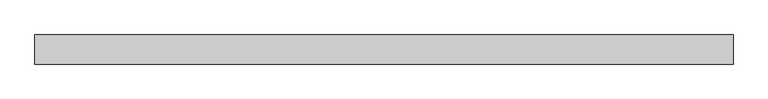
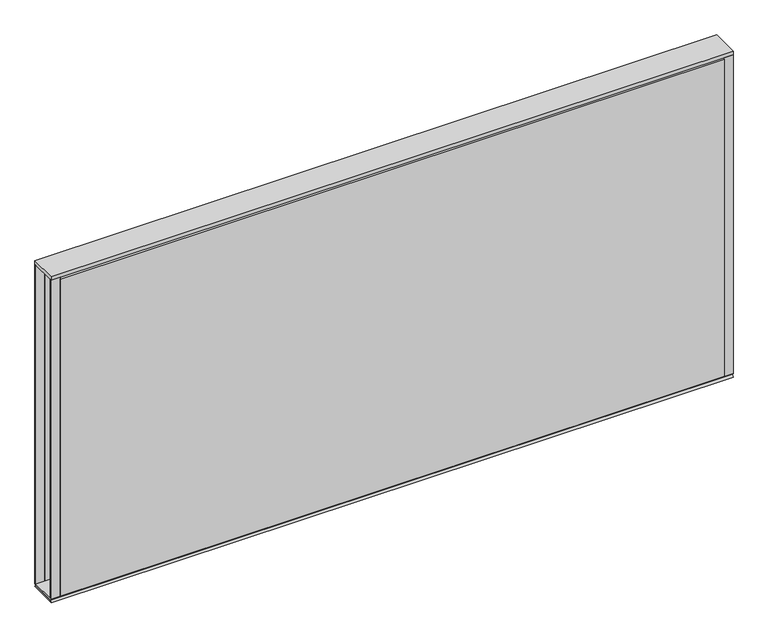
"""IFC4 building model written with IfcOpenShell, lengths in millimetres: furniture geometry, Steelcase - Kick Solutions - Panel - Stacker - Tackable Acoustical : 24H x 48W."""

from ifc_helpers import new_model, si_unit, frame, origin, place, context, project, spatial, polyline, outline, extrude, source, transform, mapped, element, save


def furniture_49650d01(model_context):
    return source(origin(), model_context, "Body", "SweptSolid", [
        extrude(outline(polyline([(-50.7995075, 1073.2669139), (-0.000494, 1073.2669139), (-3.1752531, 1070.0921549), (-47.6247484, 1070.0921549), (-50.7995075, 1073.2669139)])), frame((0.0, 0.0, 0.0), z_axis=(1.0, 0.0, 0.0), x_axis=(0.0, 1.0, 0.0)), (0.0, 0.0, 1.0), 1219.2),
        extrude(outline(polyline([(0.0, 1073.2669139), (-3.1750015, 1073.2669139), (-3.1750015, 1676.5169018), (0.0, 1673.4357466), (0.0, 1073.2669139)])), frame((15.8749996, 0.0, 0.0), z_axis=(1.0, 0.0, 0.0), x_axis=(0.0, 1.0, 0.0)), (0.0, 0.0, 1.0), 1187.4500008),
        extrude(outline(polyline([(-50.8000015, 1073.2669139), (-50.8000015, 1673.4357466), (-47.625, 1676.5169018), (-47.625, 1073.2669139), (-50.8000015, 1073.2669139)])), frame((15.8749996, 0.0, 0.0), z_axis=(1.0, 0.0, 0.0), x_axis=(0.0, 1.0, 0.0)), (0.0, 0.0, 1.0), 1187.4500008),
        extrude(outline(polyline([(1219.2, -3.1750015), (1203.3250004, -3.1750015), (1203.3250004, 0.0), (1219.2, 0.0), (1219.2, -3.1750015)])), frame((0.0, 0.0, 1073.2669139), z_axis=(0.0, 0.0, 1.0), x_axis=(1.0, 0.0, 0.0)), (0.0, 0.0, 1.0), 603.2499879),
        extrude(outline(polyline([(15.8749996, -50.8000015), (0.0, -50.8000015), (0.0, -47.625), (15.8749996, -47.625), (15.8749996, -50.8000015)])), frame((0.0, 0.0, 1073.2669139), z_axis=(0.0, 0.0, 1.0), x_axis=(1.0, 0.0, 0.0)), (0.0, 0.0, 1.0), 603.2499879),
        extrude(outline(polyline([(1219.2, 0.0), (1219.2, -50.8000015), (0.0, -50.8000015), (0.0, 0.0), (1219.2, 0.0)])), frame((0.0, 0.0, 1676.5169018), z_axis=(0.0, 0.0, 1.0), x_axis=(1.0, 0.0, 0.0)), (0.0, 0.0, 1.0), 6.35),
        extrude(outline(polyline([(15.8749996, -3.1750015), (0.0, -3.1750015), (0.0, 0.0), (15.8749996, 0.0), (15.8749996, -3.1750015)])), frame((0.0, 0.0, 1073.2669139), z_axis=(0.0, 0.0, 1.0), x_axis=(1.0, 0.0, 0.0)), (0.0, 0.0, 1.0), 603.2499879),
        extrude(outline(polyline([(1219.2, -50.8000015), (1203.3250004, -50.8000015), (1203.3250004, -47.625), (1219.2, -47.625), (1219.2, -50.8000015)])), frame((0.0, 0.0, 1073.2669139), z_axis=(0.0, 0.0, 1.0), x_axis=(1.0, 0.0, 0.0)), (0.0, 0.0, 1.0), 603.2499879),
        extrude(outline(polyline([(-50.8000015, 1066.9169018), (-47.6247484, 1070.0921549), (-3.1752531, 1070.0921549), (0.0, 1066.9169018), (-50.8000015, 1066.9169018)])), frame((0.0, 0.0, 0.0), z_axis=(1.0, 0.0, 0.0), x_axis=(0.0, 1.0, 0.0)), (0.0, 0.0, 1.0), 1219.2),
    ])


if __name__ == "__main__":
    model = new_model("IFC4")
    model_context = context("Model", 3, world=origin())
    ifc_project = project(units=[si_unit("LENGTHUNIT", "METRE", prefix="MILLI")], contexts=[model_context])
    site = spatial("IfcSite", under=ifc_project)
    building = spatial("IfcBuilding", under=site)
    placement = place(None, origin())
    furniture_shape = furniture_49650d01(model_context)
    element("IfcFurniture", 1, ObjectType="Steelcase - Kick Solutions - Panel - Stacker - Tackable Acoustical : 24H x 48W", at=placement, inside=building, context=model_context, shape_type="MappedRepresentation", body=[
        mapped(furniture_shape, transform((0.0, 0.0, 0.0), x_axis=(1.0, 0.0, 0.0), y_axis=(0.0, 1.0, 0.0), z_axis=(0.0, 0.0, 1.0))),
    ])
    save(model, "model.ifc")
